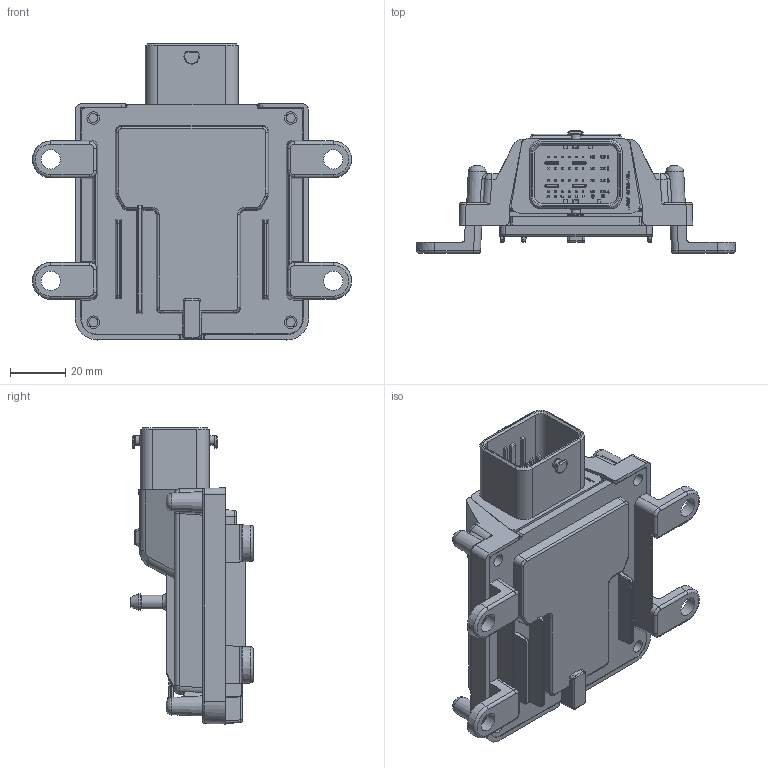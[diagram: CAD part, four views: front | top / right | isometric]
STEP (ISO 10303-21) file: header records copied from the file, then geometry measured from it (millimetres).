
FILE_DESCRIPTION(/* description */ (''),/* implementation_level */ '2;1');
FILE_NAME(/* name */ 'C:/Users/behr0/Desktop/MaxxECU models/MaxxECU MINI Export v1.step',/* time_stamp */ '2019-02-26T21:01:21+01:00',/* author */ ('behr00@gmail.com'),/* organization */ (''),/* preprocessor_version */ 'ST-DEVELOPER v17.2',/* originating_system */ 'Autodesk Translation Framework v7.6.0.251',/* authorisation */ '');
FILE_SCHEMA (('AUTOMOTIVE_DESIGN { 1 0 10303 214 3 1 1 }'));
Products named in the file (6): MaxxECU MINI Export; MAP; CMC connector; Nipple; USB Cover 2; CKKB32-1-A v3
Assembly tree (5 placements, depth 2):
  MaxxECU MINI Export
    MAP
    CMC connector
    Nipple
    USB Cover 2
    CKKB32-1-A v3
Bounding box: 115.22 x 44.3 x 106.8 mm (x, y, z)
Volume: 83600.6 mm3; surface area: 70063 mm2
Topology: 6 solids, 6 shells, 3640 faces, 10022 edges, 6516 vertices
Faces by surface type: plane 2381, cylinder 924, torus 162, bspline 88, cone 71, sphere 14
Full cylindrical faces by diameter (mm): 1.6 x2, 2 x2, 2.2 x1, 2.5 x1, 3 x1, 3.048 x1, 3.2 x4, 3.4 x2, 4 x1, 4.5 x4, 5 x1, 6 x2, 7 x4, 8 x2, 9.525 x1, 9.6 x1, 10.6 x1, 11 x1, 13.5 x1, 14.4 x1, 15 x1
Entity records: 119248 total; most frequent: CARTESIAN_POINT 24825, ORIENTED_EDGE 20014, DIRECTION 19407, EDGE_CURVE 10007, LINE 7317, VECTOR 7317, VERTEX_POINT 6516, AXIS2_PLACEMENT_3D 6045
